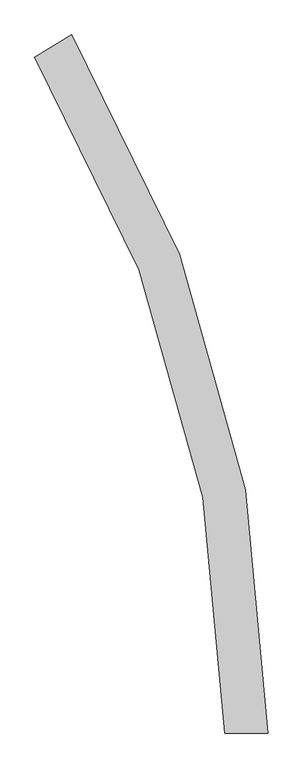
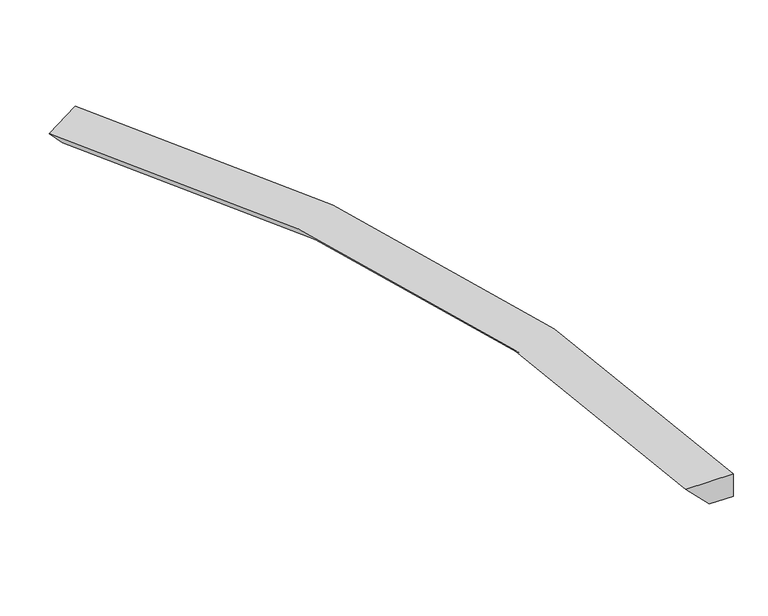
"""IFC4 building model written with IfcOpenShell, lengths in millimetres: proxy geometry, Gousset traverse courbe ext ou int : Gousset traverse courbe - coté extérieur."""

from ifc_helpers import new_model, si_unit, frame, origin, place, context, project, spatial, polyline, circle_curve, source, transform, mapped, element, save
from ifc_brep_helpers import plane_surface, cylinder_surface, revolved_surface, advanced_brep


def generic_models_7486e4d8(model_context):
    return source(origin(), model_context, "Body", "AdvancedBrep", [
        advanced_brep(
        [(21665.0, 0.0, -350.0), (20965.0, 0.0, -350.0), (21315.0, 0.0, -700.0), (21665.0, 0.0, -700.0), (18483.8987584, 11301.2261144, -700.0), (18483.8987584, 11301.2261144, -350.0), (18185.2897316, 11118.6538024, -700.0), (17886.6807048, 10936.0814904, -350.0)],
        [
            (0, 1),
            (1, 2),
            (2, 3),
            (3, 0),
            (3, 4, circle_curve(frame((0.0, 0.0, -700.0), z_axis=(0.0, 0.0, 1.0), x_axis=(1.0, 0.0, 0.0)), 21665.0)),
            (4, 5),
            (5, 0, circle_curve(frame((0.0, 0.0, -350.0), z_axis=(0.0, 0.0, -1.0), x_axis=(1.0, 0.0, 0.0)), 21665.0)),
            (2, 6, circle_curve(frame((0.0, 0.0, -700.0), z_axis=(0.0, 0.0, 1.0), x_axis=(1.0, 0.0, 0.0)), 21315.0)),
            (6, 4),
            (1, 7, circle_curve(frame((0.0, 0.0, -350.0), z_axis=(0.0, 0.0, 1.0), x_axis=(1.0, 0.0, 0.0)), 20965.0)),
            (7, 6),
            (5, 7),
        ],
        [
            plane_surface(frame((0.0, 0.0, 1500.0), z_axis=(0.0, -1.0, 0.0), x_axis=(1.0, 0.0, 0.0))),
            cylinder_surface(frame((0.0, 0.0, 1500.0), z_axis=(0.0, 0.0, 1.0), x_axis=(1.0, 0.0, 0.0)), 21665.0),
            plane_surface(frame((0.0, 0.0, -700.0), z_axis=(0.0, 0.0, -1.0), x_axis=(1.0, 0.0, 0.0))),
            revolved_surface(polyline([(20965.0, 0.0, -350.0), (21315.0, 0.0, -700.0)]), (0.0, 0.0, 1500.0), (0.0, 0.0, 1.0)),
            plane_surface(frame((0.0, 0.0, -350.0), z_axis=(0.0, 0.0, 1.0), x_axis=(1.0, 0.0, 0.0))),
            plane_surface(frame((0.0, 0.0, -350.0), z_axis=(-0.5216351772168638, 0.853168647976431, 0.0), x_axis=(0.0, 0.0, -1.0))),
        ],
        [
            (0, [[1, 2, 3, 4]]),
            (1, [[-4, 5, 6, 7]]),
            (2, [[-3, 8, 9, -5]]),
            (3, [[-2, 10, 11, -8]]),
            (4, [[-1, -7, 12, -10]]),
            (5, [[-6, -9, -11, -12]]),
        ],
    ),
    ])


if __name__ == "__main__":
    model = new_model("IFC4")
    model_context = context("Model", 3, world=origin())
    ifc_project = project(units=[si_unit("LENGTHUNIT", "METRE", prefix="MILLI")], contexts=[model_context])
    site = spatial("IfcSite", under=ifc_project)
    building = spatial("IfcBuilding", under=site)
    placement = place(None, origin())
    generic_models_shape = generic_models_7486e4d8(model_context)
    element("IfcBuildingElementProxy", 1, Name="Gousset traverse courbe ext ou int : Gousset traverse courbe - coté extérieur", ObjectType="Gousset traverse courbe ext ou int : Gousset traverse courbe - coté extérieur", at=placement, inside=building, context=model_context, shape_type="MappedRepresentation", body=[
        mapped(generic_models_shape, transform((0.0, 0.0, 0.0), x_axis=(1.0, 0.0, 0.0), y_axis=(0.0, 1.0, 0.0), z_axis=(0.0, 0.0, 1.0))),
    ])
    save(model, "model.ifc")
